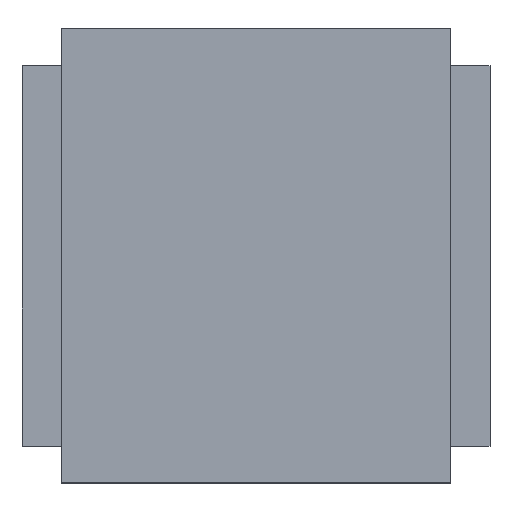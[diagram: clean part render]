
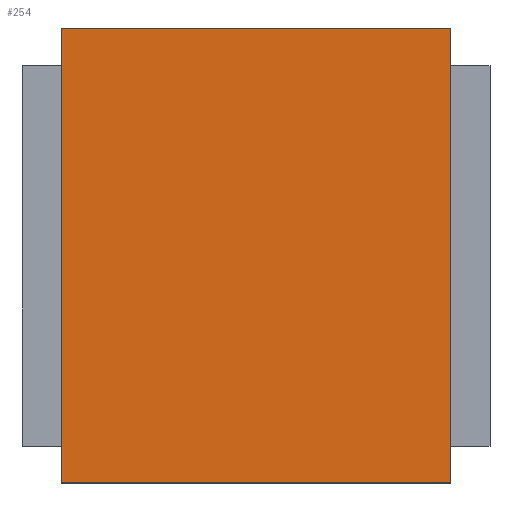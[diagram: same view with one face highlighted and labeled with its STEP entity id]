
A CAD part, top view. The second image highlights one B-rep face of the part: STEP entity #254.
In plain terms, the highlighted planar face has unit normal (0, 0, 1).
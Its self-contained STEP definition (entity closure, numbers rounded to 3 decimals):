
#254=ADVANCED_FACE('',(#540),#542,.T.);
#540=FACE_BOUND('',#541,.T.);
#541=EDGE_LOOP('',(#954,#955,#956,#957));
#542=PLANE('',#543);
#543=AXIS2_PLACEMENT_3D('',#544,#545,#546);
#544=CARTESIAN_POINT('',(0.,0.,2.));
#545=DIRECTION('',(0.,0.,1.));
#546=DIRECTION('',(-1.,0.,0.));
#954=ORIENTED_EDGE('',*,*,#1222,.T.);
#955=ORIENTED_EDGE('',*,*,#1236,.T.);
#956=ORIENTED_EDGE('',*,*,#1226,.T.);
#957=ORIENTED_EDGE('',*,*,#1224,.T.);
#1222=EDGE_CURVE('',#1449,#1447,#1450,.T.);
#1224=EDGE_CURVE('',#1452,#1449,#1453,.T.);
#1226=EDGE_CURVE('',#1455,#1452,#1456,.T.);
#1236=EDGE_CURVE('',#1447,#1455,#1470,.T.);
#1447=VERTEX_POINT('',#1704);
#1449=VERTEX_POINT('',#1708);
#1450=LINE('',#1709,#1710);
#1452=VERTEX_POINT('',#1715);
#1453=LINE('',#1716,#1717);
#1455=VERTEX_POINT('',#1722);
#1456=LINE('',#1723,#1724);
#1470=LINE('',#1757,#1758);
#1704=CARTESIAN_POINT('',(-1.123,-1.31,2.));
#1708=CARTESIAN_POINT('',(-1.123,1.31,2.));
#1709=CARTESIAN_POINT('',(-1.123,1.31,2.));
#1710=VECTOR('',#1711,1.);
#1711=DIRECTION('',(0.,-1.,0.));
#1715=CARTESIAN_POINT('',(1.123,1.31,2.));
#1716=CARTESIAN_POINT('',(1.123,1.31,2.));
#1717=VECTOR('',#1718,1.);
#1718=DIRECTION('',(-1.,0.,0.));
#1722=CARTESIAN_POINT('',(1.123,-1.31,2.));
#1723=CARTESIAN_POINT('',(1.123,-1.31,2.));
#1724=VECTOR('',#1725,1.);
#1725=DIRECTION('',(0.,1.,0.));
#1757=CARTESIAN_POINT('',(-1.123,-1.31,2.));
#1758=VECTOR('',#1759,1.);
#1759=DIRECTION('',(1.,0.,0.));
